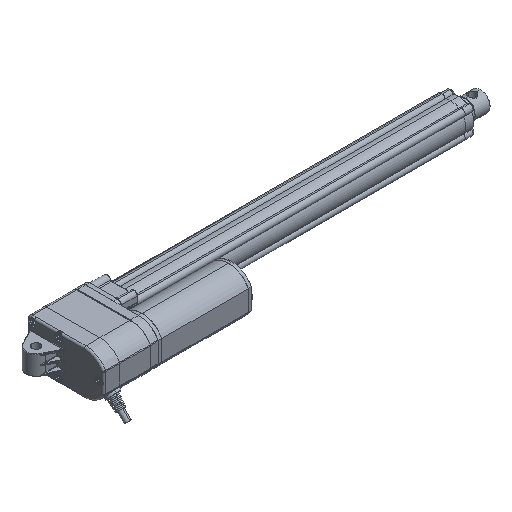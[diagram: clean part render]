
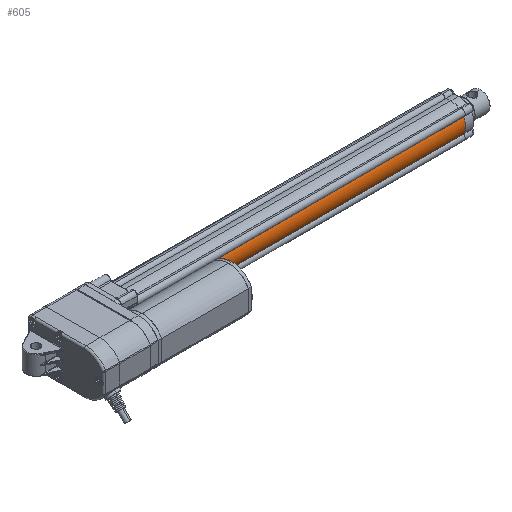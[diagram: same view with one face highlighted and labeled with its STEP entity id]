
A CAD part, isometric view. The second image highlights one B-rep face of the part: STEP entity #605.
In plain terms, the highlighted cylindrical face has radius 15 mm (diameter 30 mm), a partial arc.
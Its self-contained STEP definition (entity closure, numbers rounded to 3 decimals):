
#605=ADVANCED_FACE('',(#1916),#1917,.T.);
#1916=FACE_OUTER_BOUND('',#5602,.T.);
#1917=CYLINDRICAL_SURFACE('',#5603,15.0);
#5602=EDGE_LOOP('',(#11404,#11405,#11406,#11407));
#5603=AXIS2_PLACEMENT_3D('',#11408,#11409,#11410);
#11404=ORIENTED_EDGE('',*,*,#14576,.T.);
#11405=ORIENTED_EDGE('',*,*,#14249,.F.);
#11406=ORIENTED_EDGE('',*,*,#14579,.T.);
#11407=ORIENTED_EDGE('',*,*,#14582,.F.);
#11408=CARTESIAN_POINT('',(225.75,0.0,0.0));
#11409=DIRECTION('',(1.0,0.0,0.0));
#11410=DIRECTION('',(0.0,0.0,-1.0));
#14249=EDGE_CURVE('',#17010,#17000,#17012,.T.);
#14576=EDGE_CURVE('',#17537,#17000,#17538,.T.);
#14579=EDGE_CURVE('',#17010,#17540,#17542,.T.);
#14582=EDGE_CURVE('',#17537,#17540,#17546,.T.);
#17000=VERTEX_POINT('',#24571);
#17010=VERTEX_POINT('',#24581);
#17012=CIRCLE('',#24583,15.0);
#17537=VERTEX_POINT('',#25940);
#17538=LINE('',#25941,#25942);
#17540=VERTEX_POINT('',#25944);
#17542=LINE('',#25946,#25947);
#17546=CIRCLE('',#25951,15.0);
#24571=CARTESIAN_POINT('',(391.5,-12.94,-7.587));
#24581=CARTESIAN_POINT('',(391.5,-12.94,7.587));
#24583=AXIS2_PLACEMENT_3D('',#30234,#30235,#30236);
#25940=CARTESIAN_POINT('',(60.0,-12.94,-7.587));
#25941=CARTESIAN_POINT('',(225.75,-12.94,-7.587));
#25942=VECTOR('',#30618,1.0);
#25944=CARTESIAN_POINT('',(60.0,-12.94,7.587));
#25946=CARTESIAN_POINT('',(225.75,-12.94,7.587));
#25947=VECTOR('',#30625,1.0);
#25951=AXIS2_PLACEMENT_3D('',#30632,#30633,#30634);
#30234=CARTESIAN_POINT('',(391.5,0.0,0.0));
#30235=DIRECTION('',(1.0,0.0,0.0));
#30236=DIRECTION('',(0.0,0.0,-1.0));
#30618=DIRECTION('',(1.0,0.0,0.0));
#30625=DIRECTION('',(-1.0,-0.0,-0.0));
#30632=CARTESIAN_POINT('',(60.0,0.0,0.0));
#30633=DIRECTION('',(-1.0,-0.0,-0.0));
#30634=DIRECTION('',(0.0,0.0,-1.0));
